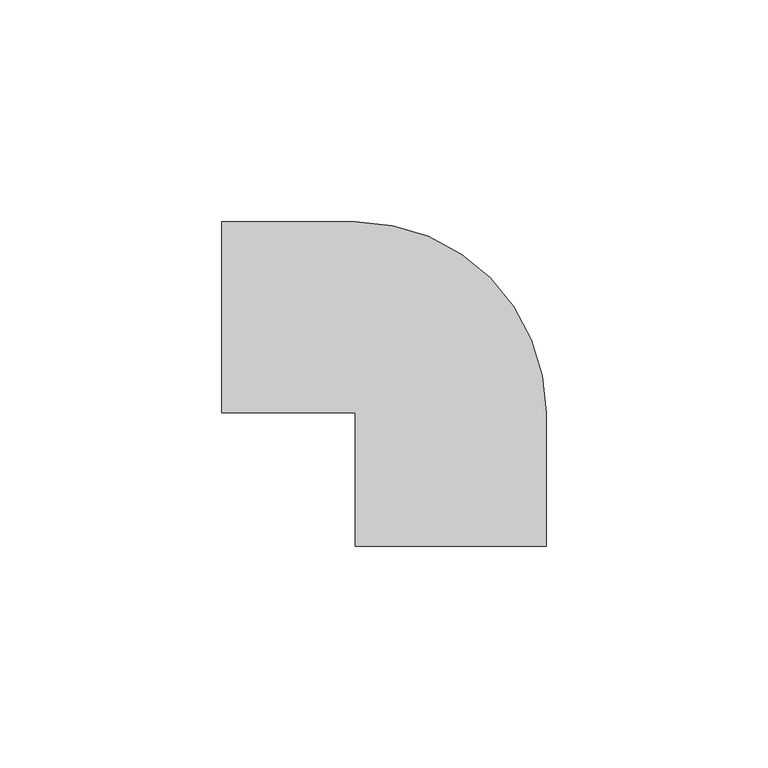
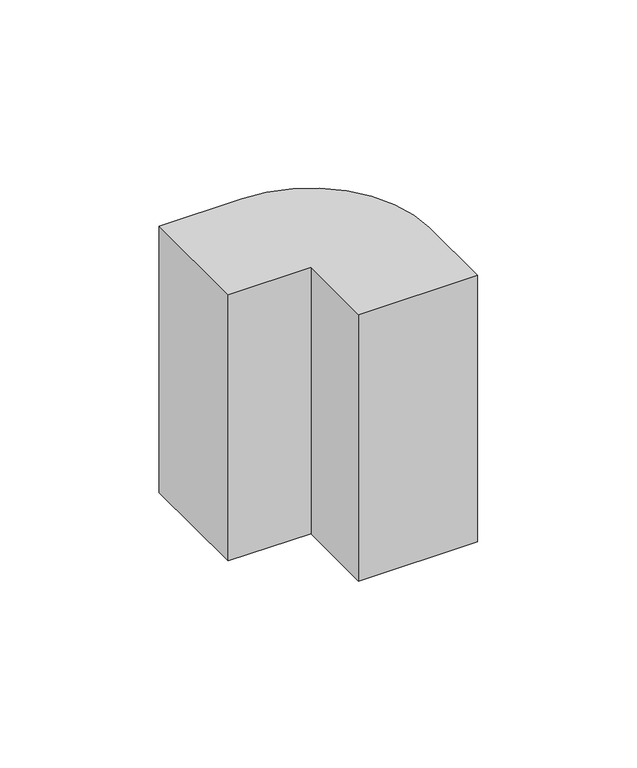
"""IFC4 building model written with IfcOpenShell, lengths in millimetres: proxy geometry, Внешний_угол_КМН : Внешний угол КМН 100х40."""

from ifc_helpers import new_model, si_unit, point, origin, origin_with_axes, origin_2d, place, context, project, spatial, polyline, circle_curve, trimmed, segment, composite_curve, outline, extrude, source, transform, mapped, element, save


def generic_models_2ab848f6(model_context):
    return source(origin(), model_context, "Body", "SweptSolid", [
        extrude(outline(composite_curve([segment(polyline([(-30.0, 0.0), (-30.0, 43.037256), (0.0, 43.037256)]), True, "CONTINUOUS"), segment(trimmed(circle_curve(origin_2d(), 43.037256), [point((0.0, 43.037256))], [point((43.037256, 0.0))], False, "CARTESIAN"), True, "CONTINUOUS"), segment(polyline([(43.037256, 0.0), (43.037256, -30.0), (0.0, -30.0), (0.0, 0.0), (-30.0, 0.0)]), True, "CONTINUOUS")], self_intersect=False)), origin_with_axes(), (0.0, 0.0, 1.0), 101.9770043),
    ])


if __name__ == "__main__":
    model = new_model("IFC4")
    model_context = context("Model", 3, world=origin())
    ifc_project = project(units=[si_unit("LENGTHUNIT", "METRE", prefix="MILLI")], contexts=[model_context])
    site = spatial("IfcSite", under=ifc_project)
    building = spatial("IfcBuilding", under=site)
    placement = place(None, origin())
    generic_models_shape = generic_models_2ab848f6(model_context)
    element("IfcBuildingElementProxy", 1, Name="Внешний_угол_КМН : Внешний угол КМН 100х40", ObjectType="Внешний_угол_КМН : Внешний угол КМН 100х40", at=placement, inside=building, context=model_context, shape_type="MappedRepresentation", body=[
        mapped(generic_models_shape, transform((0.0, 0.0, 0.0), x_axis=(1.0, 0.0, 0.0), y_axis=(0.0, 1.0, 0.0), z_axis=(0.0, 0.0, 1.0))),
    ])
    save(model, "model.ifc")
